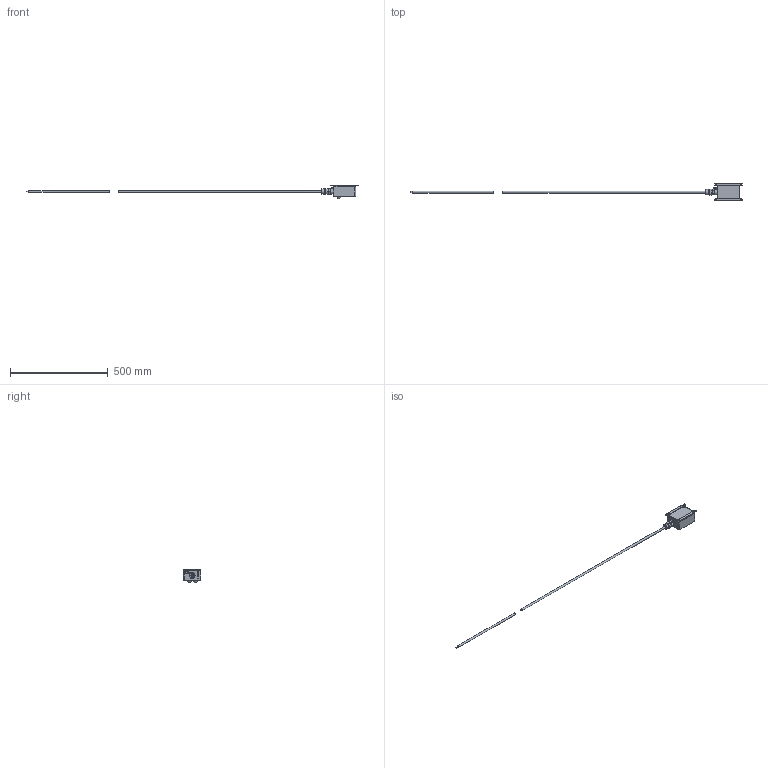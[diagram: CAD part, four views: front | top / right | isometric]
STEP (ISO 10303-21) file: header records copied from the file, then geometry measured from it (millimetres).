
FILE_DESCRIPTION(/* description */ ('','CAx-IF Rec.Pracs.---Representation and Presentation of Product Manufacturing Information (PMI)---3.8---2014-02-18'),/* implementation_level */ '2;1');
FILE_NAME(/* name */ 'C:\Users\suhorukovav\Desktop\Филин -2 Т-3-4 ЗАО НПК ЭТАЛОН.stp',/* time_stamp */ '2016-12-25T14:41:19+03:00',/* author */ ('suhorukovav'),/* organization */ (''),/* preprocessor_version */ 'ST-DEVELOPER v16.1',/* originating_system */ 'Autodesk Inventor 2016',/* authorisation */ '');
FILE_SCHEMA (('AP242_MANAGED_MODEL_BASED_3D_ENGINEERING_MIM_LF { 1 0 10303 442 1 1 4 }'));
Length unit declared in the file: millimetre
Products named in the file (2): Сборка1_Substitute_1; Сборка1
Assembly tree (1 placements, depth 2):
  Сборка1
    Сборка1_Substitute_1
Bounding box: 1700 x 91.1 x 69 mm (x, y, z)
Surface area: 167312 mm2 (no closed solid volume)
Topology: 0 solids, 38 shells, 910 faces, 2125 edges, 1379 vertices
Faces by surface type: plane 485, cylinder 203, cone 115, bspline 90, torus 10, sphere 7
Full cylindrical faces by diameter (mm): 1 x2, 2 x7, 2.459 x6, 3 x12, 3.4 x3, 3.5 x9, 4 x4, 4.134 x3, 4.2 x6, 5 x5, 5.3 x2, 5.5 x3, 6 x16, 8 x6, 8.8 x4, 10 x5, 11 x3, 12 x1, 17.8 x1, 18 x2, 18.376 x1, 20 x2, 21 x1, 24 x2, 24.2 x2, 27 x4, 43.2 x1, 43.5 x1, 46.2 x2, 55 x2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
Entity records: 25774 total; most frequent: CARTESIAN_POINT 5771, DIRECTION 3770, ORIENTED_EDGE 3750, EDGE_CURVE 1875, AXIS2_PLACEMENT_3D 1376, VERTEX_POINT 1335, EDGE_LOOP 1256, LINE 1018
